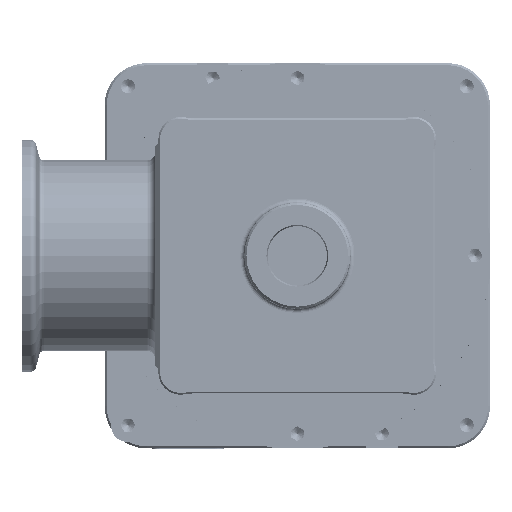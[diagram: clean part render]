
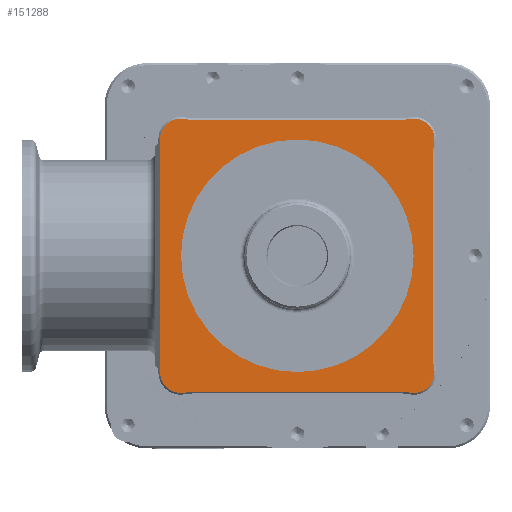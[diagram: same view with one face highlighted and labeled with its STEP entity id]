
A CAD part, left-side view. The second image highlights one B-rep face of the part: STEP entity #151288.
In plain terms, the highlighted planar face has unit normal (-1, 0, 0) as drawn and (0, -1, 0) by its records, which use the part's own axes.
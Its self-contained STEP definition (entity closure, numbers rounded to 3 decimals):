
#99174=LINE('',#406062,#123082);
#99175=LINE('',#406069,#123083);
#99176=LINE('',#406077,#123084);
#99177=LINE('',#406085,#123085);
#123082=VECTOR('',#350173,1.);
#123083=VECTOR('',#350178,1.);
#123084=VECTOR('',#350185,1.);
#123085=VECTOR('',#350192,1.);
#149362=FACE_BOUND('',#184540,.T.);
#149363=FACE_BOUND('',#184541,.T.);
#151288=ADVANCED_FACE('',(#149362,#149363),#164360,.F.);
#164360=PLANE('',#334198);
#184540=EDGE_LOOP('',(#199038));
#184541=EDGE_LOOP('',(#199039,#199040,#199041,#199042,#199043,#199044,#199045,
#199046,#199047,#199048,#199049,#199050,#199051,#199052));
#199038=ORIENTED_EDGE('',*,*,#293447,.T.);
#199039=ORIENTED_EDGE('',*,*,#293448,.T.);
#199040=ORIENTED_EDGE('',*,*,#293449,.T.);
#199041=ORIENTED_EDGE('',*,*,#293450,.T.);
#199042=ORIENTED_EDGE('',*,*,#293451,.T.);
#199043=ORIENTED_EDGE('',*,*,#293452,.T.);
#199044=ORIENTED_EDGE('',*,*,#293453,.T.);
#199045=ORIENTED_EDGE('',*,*,#293454,.T.);
#199046=ORIENTED_EDGE('',*,*,#293455,.T.);
#199047=ORIENTED_EDGE('',*,*,#293456,.T.);
#199048=ORIENTED_EDGE('',*,*,#293457,.T.);
#199049=ORIENTED_EDGE('',*,*,#293458,.T.);
#199050=ORIENTED_EDGE('',*,*,#293459,.T.);
#199051=ORIENTED_EDGE('',*,*,#293460,.T.);
#199052=ORIENTED_EDGE('',*,*,#293461,.T.);
#270025=VERTEX_POINT('',#406061);
#270026=VERTEX_POINT('',#406063);
#270027=VERTEX_POINT('',#406064);
#270028=VERTEX_POINT('',#406066);
#270029=VERTEX_POINT('',#406068);
#270030=VERTEX_POINT('',#406070);
#270031=VERTEX_POINT('',#406072);
#270032=VERTEX_POINT('',#406074);
#270033=VERTEX_POINT('',#406076);
#270034=VERTEX_POINT('',#406078);
#270035=VERTEX_POINT('',#406080);
#270036=VERTEX_POINT('',#406082);
#270037=VERTEX_POINT('',#406084);
#270038=VERTEX_POINT('',#406086);
#270039=VERTEX_POINT('',#406088);
#293447=EDGE_CURVE('',#270025,#270025,#328931,.T.);
#293448=EDGE_CURVE('',#270026,#270027,#99174,.T.);
#293449=EDGE_CURVE('',#270027,#270028,#328932,.T.);
#293450=EDGE_CURVE('',#270028,#270029,#328933,.T.);
#293451=EDGE_CURVE('',#270029,#270030,#99175,.T.);
#293452=EDGE_CURVE('',#270030,#270031,#328934,.T.);
#293453=EDGE_CURVE('',#270031,#270032,#328935,.T.);
#293454=EDGE_CURVE('',#270032,#270033,#328936,.T.);
#293455=EDGE_CURVE('',#270033,#270034,#99176,.T.);
#293456=EDGE_CURVE('',#270034,#270035,#328937,.T.);
#293457=EDGE_CURVE('',#270035,#270036,#328938,.T.);
#293458=EDGE_CURVE('',#270036,#270037,#328939,.T.);
#293459=EDGE_CURVE('',#270037,#270038,#99177,.T.);
#293460=EDGE_CURVE('',#270038,#270039,#328940,.T.);
#293461=EDGE_CURVE('',#270039,#270026,#328941,.T.);
#328931=CIRCLE('',#334187,24.5);
#328932=CIRCLE('',#334188,4.9);
#328933=CIRCLE('',#334189,10.4);
#328934=CIRCLE('',#334190,10.4);
#328935=CIRCLE('',#334191,4.9);
#328936=CIRCLE('',#334192,10.4);
#328937=CIRCLE('',#334193,10.4);
#328938=CIRCLE('',#334194,4.9);
#328939=CIRCLE('',#334195,10.4);
#328940=CIRCLE('',#334196,10.4);
#328941=CIRCLE('',#334197,4.9);
#334187=AXIS2_PLACEMENT_3D('',#406060,#350171,#350172);
#334188=AXIS2_PLACEMENT_3D('',#406065,#350174,#350175);
#334189=AXIS2_PLACEMENT_3D('',#406067,#350176,#350177);
#334190=AXIS2_PLACEMENT_3D('',#406071,#350179,#350180);
#334191=AXIS2_PLACEMENT_3D('',#406073,#350181,#350182);
#334192=AXIS2_PLACEMENT_3D('',#406075,#350183,#350184);
#334193=AXIS2_PLACEMENT_3D('',#406079,#350186,#350187);
#334194=AXIS2_PLACEMENT_3D('',#406081,#350188,#350189);
#334195=AXIS2_PLACEMENT_3D('',#406083,#350190,#350191);
#334196=AXIS2_PLACEMENT_3D('',#406087,#350193,#350194);
#334197=AXIS2_PLACEMENT_3D('',#406089,#350195,#350196);
#334198=AXIS2_PLACEMENT_3D('',#406090,#350197,#350198);
#350171=DIRECTION('',(0.,1.,0.));
#350172=DIRECTION('',(0.,0.,1.));
#350173=DIRECTION('',(0.,0.,1.));
#350174=DIRECTION('',(0.,-1.,0.));
#350175=DIRECTION('',(0.,0.,1.));
#350176=DIRECTION('',(0.,1.,0.));
#350177=DIRECTION('',(0.,0.,1.));
#350178=DIRECTION('',(-1.,0.,0.));
#350179=DIRECTION('',(0.,1.,0.));
#350180=DIRECTION('',(0.,0.,1.));
#350181=DIRECTION('',(0.,-1.,0.));
#350182=DIRECTION('',(0.,0.,1.));
#350183=DIRECTION('',(0.,1.,0.));
#350184=DIRECTION('',(0.,0.,1.));
#350185=DIRECTION('',(0.,0.,-1.));
#350186=DIRECTION('',(0.,1.,0.));
#350187=DIRECTION('',(0.,0.,1.));
#350188=DIRECTION('',(0.,-1.,0.));
#350189=DIRECTION('',(0.,0.,1.));
#350190=DIRECTION('',(0.,1.,0.));
#350191=DIRECTION('',(0.,0.,1.));
#350192=DIRECTION('',(1.,0.,0.));
#350193=DIRECTION('',(0.,1.,0.));
#350194=DIRECTION('',(0.,0.,1.));
#350195=DIRECTION('',(0.,-1.,0.));
#350196=DIRECTION('',(0.,0.,1.));
#350197=DIRECTION('',(0.,1.,0.));
#350198=DIRECTION('',(0.,0.,1.));
#406060=CARTESIAN_POINT('',(0.,34.,0.));
#406061=CARTESIAN_POINT('',(0.,34.,24.5));
#406062=CARTESIAN_POINT('',(32.4,34.,100.));
#406063=CARTESIAN_POINT('',(32.4,34.,-27.5));
#406064=CARTESIAN_POINT('',(32.4,34.,27.5));
#406065=CARTESIAN_POINT('',(27.5,34.,27.5));
#406066=CARTESIAN_POINT('',(26.534,34.,32.304));
#406067=CARTESIAN_POINT('',(24.485,34.,42.5));
#406068=CARTESIAN_POINT('',(24.485,34.,32.1));
#406069=CARTESIAN_POINT('',(0.,34.,32.1));
#406070=CARTESIAN_POINT('',(-24.485,34.,32.1));
#406071=CARTESIAN_POINT('',(-24.485,34.,42.5));
#406072=CARTESIAN_POINT('',(-26.534,34.,32.304));
#406073=CARTESIAN_POINT('',(-27.5,34.,27.5));
#406074=CARTESIAN_POINT('',(-32.304,34.,26.534));
#406075=CARTESIAN_POINT('',(-42.5,34.,24.485));
#406076=CARTESIAN_POINT('',(-32.1,34.,24.485));
#406077=CARTESIAN_POINT('',(-32.1,34.,100.));
#406078=CARTESIAN_POINT('',(-32.1,34.,-24.485));
#406079=CARTESIAN_POINT('',(-42.5,34.,-24.485));
#406080=CARTESIAN_POINT('',(-32.304,34.,-26.534));
#406081=CARTESIAN_POINT('',(-27.5,34.,-27.5));
#406082=CARTESIAN_POINT('',(-26.534,34.,-32.304));
#406083=CARTESIAN_POINT('',(-24.485,34.,-42.5));
#406084=CARTESIAN_POINT('',(-24.485,34.,-32.1));
#406085=CARTESIAN_POINT('',(0.,34.,-32.1));
#406086=CARTESIAN_POINT('',(24.485,34.,-32.1));
#406087=CARTESIAN_POINT('',(24.485,34.,-42.5));
#406088=CARTESIAN_POINT('',(26.534,34.,-32.304));
#406089=CARTESIAN_POINT('',(27.5,34.,-27.5));
#406090=CARTESIAN_POINT('',(0.,34.,100.));
